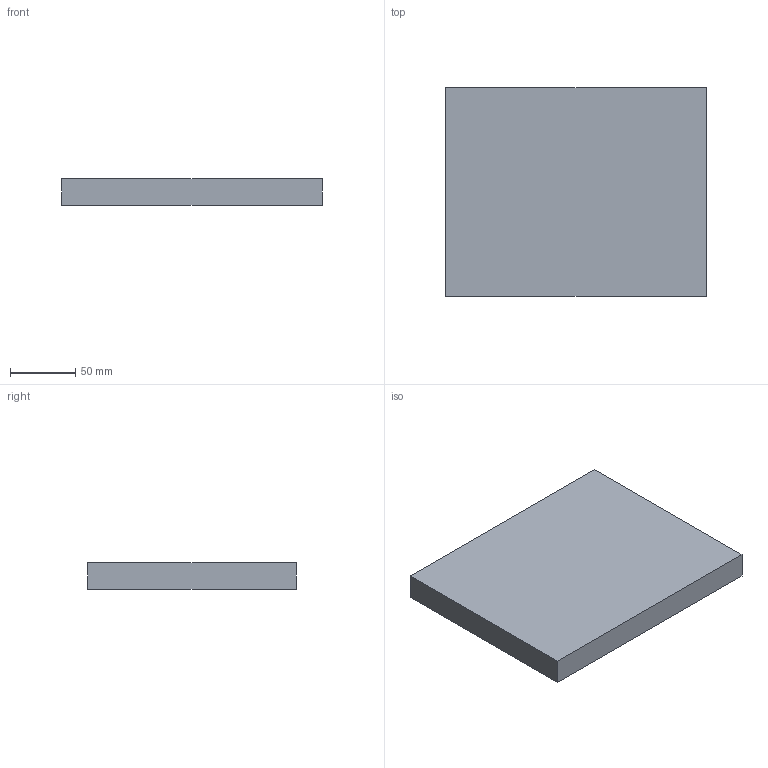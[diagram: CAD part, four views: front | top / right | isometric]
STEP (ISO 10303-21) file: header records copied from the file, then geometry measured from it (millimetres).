
FILE_DESCRIPTION(('Open CASCADE Model'),'2;1');
FILE_NAME('Open CASCADE Shape Model','2026-10-19T10:09:21',('Author'),( 'Open CASCADE'),'Open CASCADE STEP processor 8.0','Open CASCADE 8.0' ,'Unknown');
FILE_SCHEMA(('AUTOMOTIVE_DESIGN { 1 0 10303 214 1 1 1 1 }'));
Length unit declared in the file: millimetre
Products named in the file (1): TC05_PLACA_HORQUILLA_200x160x20_P05 109
Bounding box: 200 x 160 x 20 mm (x, y, z)
Volume: 640000 mm3; surface area: 78400 mm2
Topology: 1 solids, 1 shells, 6 faces, 12 edges, 8 vertices
Faces by surface type: plane 6
Entity records: 322 total; most frequent: CARTESIAN_POINT 51, DIRECTION 50, LINE 36, VECTOR 36, ORIENTED_EDGE 24, PCURVE 24, DEFINITIONAL_REPRESENTATION 24, EDGE_CURVE 12
